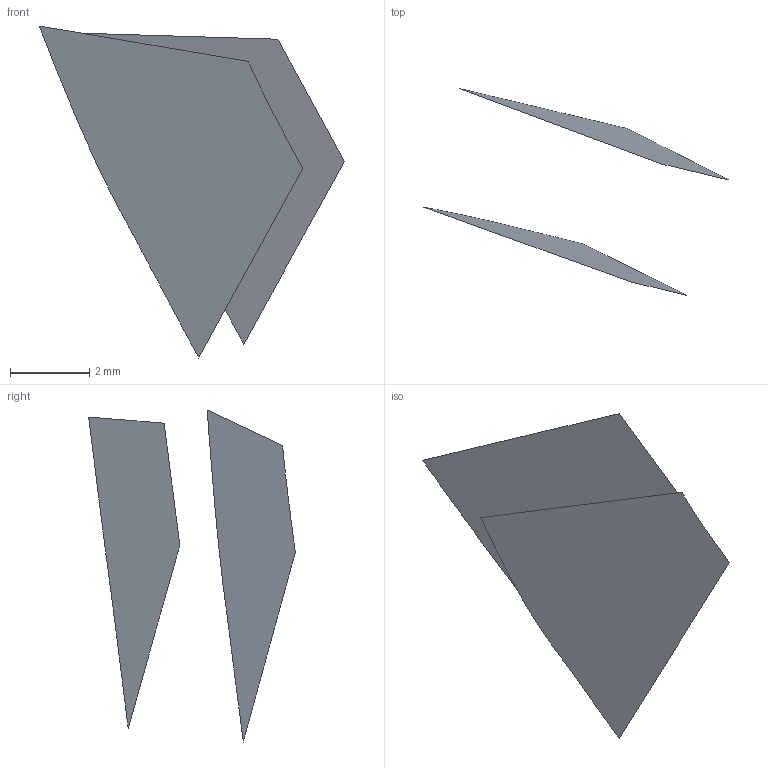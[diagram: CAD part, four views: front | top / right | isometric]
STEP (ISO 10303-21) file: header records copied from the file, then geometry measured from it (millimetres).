
FILE_DESCRIPTION(('FreeCAD Model'),'2;1');
FILE_NAME('Open CASCADE Shape Model','2022-05-22T07:50:31',('FreeCAD'),( 'FreeCAD'),'Open CASCADE STEP processor 7.5','FreeCAD','Unknown');
FILE_SCHEMA(('AUTOMOTIVE_DESIGN { 1 0 10303 214 1 1 1 1 }'));
Length unit declared in the file: millimetre
Products named in the file (3): Open CASCADE STEP translator 7.5 4; Open CASCADE STEP translator 7.5 4.1; Open CASCADE STEP translator 7.5 4.2
Assembly tree (2 placements, depth 2):
  Open CASCADE STEP translator 7.5 4
    Open CASCADE STEP translator 7.5 4.1
    Open CASCADE STEP translator 7.5 4.2
Bounding box: 7.69 x 5.21 x 8.37 mm (x, y, z)
Surface area: 59.4 mm2 (no closed solid volume)
Topology: 0 solids, 2 shells, 2 faces, 44 edges, 44 vertices
Faces by surface type: bspline 2
Entity records: 644 total; most frequent: CARTESIAN_POINT 231, B_SPLINE_CURVE_WITH_KNOTS 88, ORIENTED_EDGE 44, EDGE_CURVE 44, VERTEX_POINT 44, SURFACE_CURVE 44, PCURVE 44, DEFINITIONAL_REPRESENTATION 44
